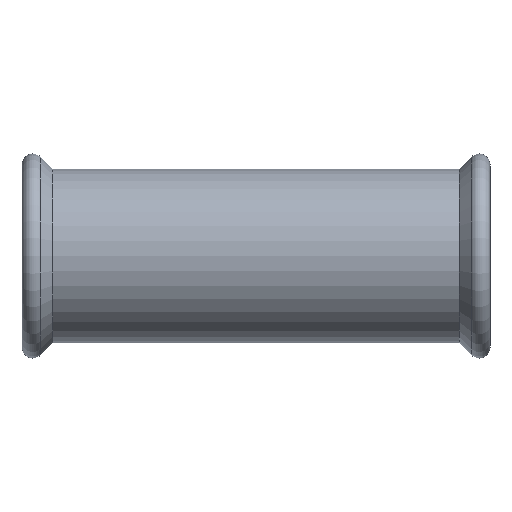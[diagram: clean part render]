
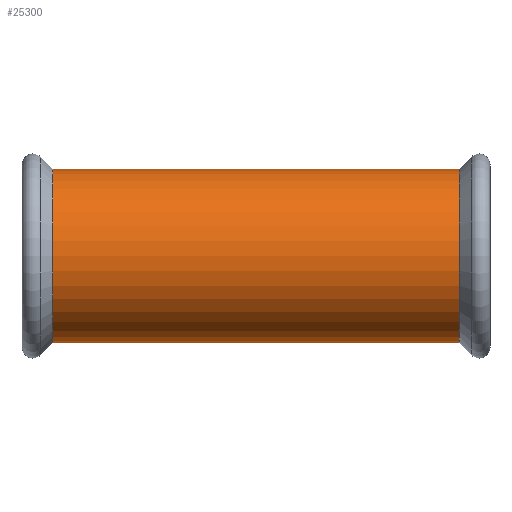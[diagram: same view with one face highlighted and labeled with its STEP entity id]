
A CAD part, top view. The second image highlights one B-rep face of the part: STEP entity #25300.
In plain terms, the highlighted cylindrical face has radius 56.35 mm (diameter 112.7 mm), a partial arc.
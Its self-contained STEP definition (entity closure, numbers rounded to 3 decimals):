
#10=CARTESIAN_POINT('',(45.19,0.,0.));
#20=DIRECTION('',(-1.,0.,0.));
#30=DIRECTION('',(0.,1.,0.));
#40=AXIS2_PLACEMENT_3D('',#10,#20,#30);
#50=CYLINDRICAL_SURFACE('',#40,56.35);
#60=CARTESIAN_POINT('',(45.19,-56.35,0.));
#70=DIRECTION('',(-1.,0.,0.));
#80=VECTOR('',#70,1.);
#90=LINE('',#60,#80);
#100=CARTESIAN_POINT('',(65.151,-56.35,0.))
;
#110=VERTEX_POINT('',#100);
#120=CARTESIAN_POINT('',(-199.151,-56.35,0.)
);
#130=VERTEX_POINT('',#120);
#140=EDGE_CURVE('',#110,#130,#90,.T.);
#160=CARTESIAN_POINT('',(65.151,0.,0.));
#170=DIRECTION('',(1.,0.,0.));
#180=DIRECTION('',(0.,1.,0.));
#190=AXIS2_PLACEMENT_3D('',#160,#170,#180);
#200=CIRCLE('',#190,56.35);
#210=CARTESIAN_POINT('',(65.151,56.35,0.));
#220=VERTEX_POINT('',#210);
#250=CARTESIAN_POINT('',(45.19,56.35,0.));
#260=DIRECTION('',(-1.,0.,0.));
#270=VECTOR('',#260,1.);
#280=LINE('',#250,#270);
#290=CARTESIAN_POINT('',(-199.151,56.35,0.));
#300=VERTEX_POINT('',#290);
#310=EDGE_CURVE('',#220,#300,#280,.T.);
#330=CARTESIAN_POINT('',(-199.151,0.,0.));
#340=DIRECTION('',(-1.,0.,0.));
#350=DIRECTION('',(0.,-1.,0.));
#360=AXIS2_PLACEMENT_3D('',#330,#340,#350);
#370=CIRCLE('',#360,56.35);
#25220=EDGE_CURVE('',#220,#110,#200,.T.);
#25230=ORIENTED_EDGE('',*,*,#25220,.F.);
#25240=ORIENTED_EDGE('',*,*,#140,.F.);
#25250=EDGE_CURVE('',#130,#300,#370,.T.);
#25260=ORIENTED_EDGE('',*,*,#25250,.F.);
#25270=ORIENTED_EDGE('',*,*,#310,.T.);
#25280=EDGE_LOOP('',(#25270,#25260,#25240,#25230));
#25290=FACE_OUTER_BOUND('',#25280,.T.);
#25300=ADVANCED_FACE('',(#25290),#50,.T.);
